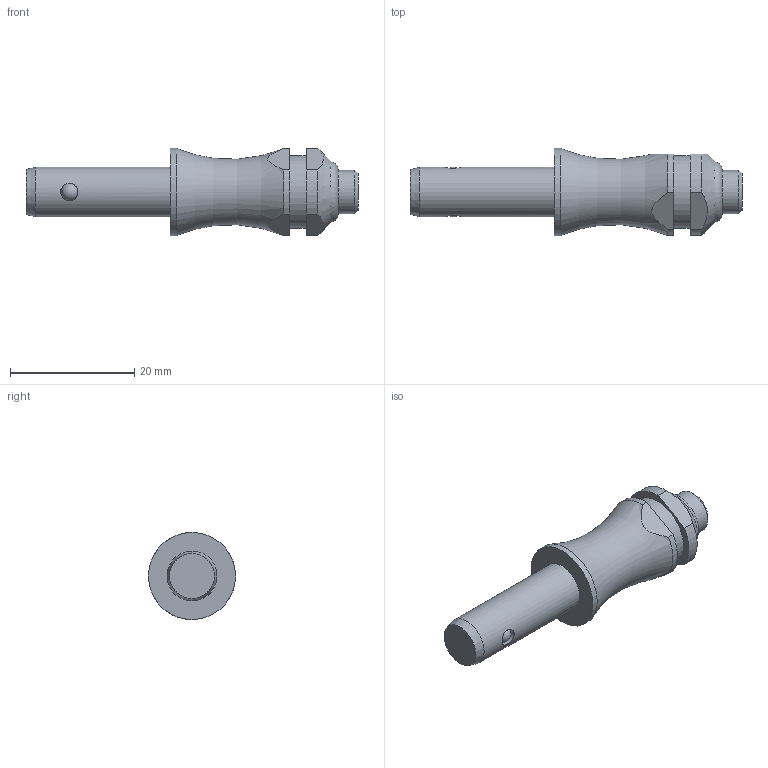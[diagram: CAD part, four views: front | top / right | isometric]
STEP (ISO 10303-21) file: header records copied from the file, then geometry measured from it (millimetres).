
FILE_DESCRIPTION( ( 'STEP AP203' ), '1' );
FILE_NAME( 'C:/Temp/Ganter_Step_05_03_2020/data/3_1/gn113_3/Stainless Steel-Ball lock pin GN 113.3-8-15 (activated).stp', '2020-03-12T08:18:22', ( 'License CC BY-ND 4.0' ), ( 'CADENAS' ), ' ', 'PARTsolutions', ' ' );
FILE_SCHEMA( ( 'CONFIG_CONTROL_DESIGN' ) );
Length unit declared in the file: millimetre
Products named in the file (1): _Stainless Steel-Ball lock pin GN 113.3-8-15 (activated)
Bounding box: 53.35 x 14 x 14 mm (x, y, z)
Volume: 4255.3 mm3; surface area: 2000.6 mm2
Topology: 1 solids, 1 shells, 30 faces, 72 edges, 45 vertices
Faces by surface type: cylinder 12, plane 11, cone 3, torus 2, sphere 2
Full cylindrical faces by diameter (mm): 2.78 x2, 7 x1, 8 x1, 11.6 x1, 14 x1
Entity records: 968 total; most frequent: CARTESIAN_POINT 321, DIRECTION 130, ORIENTED_EDGE 102, AXIS2_PLACEMENT_3D 56, EDGE_CURVE 51, EDGE_LOOP 46, VERTEX_POINT 39, FACE_OUTER_BOUND 38
